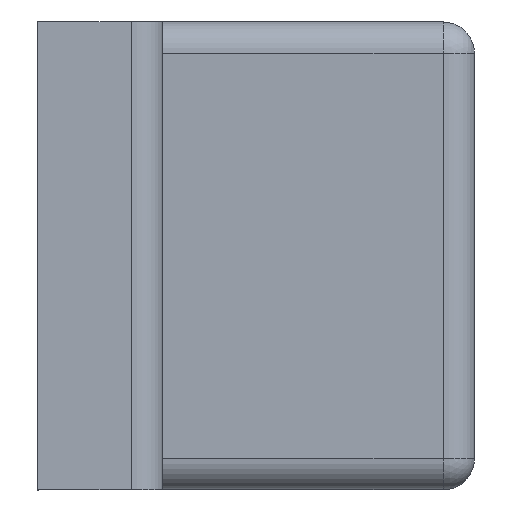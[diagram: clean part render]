
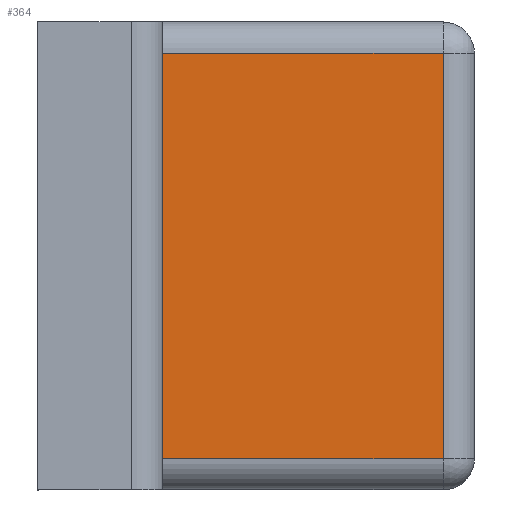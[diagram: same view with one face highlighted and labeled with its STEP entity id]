
A CAD part, left-side view. The second image highlights one B-rep face of the part: STEP entity #364.
In plain terms, the highlighted planar face has unit normal (-1, 0, 0).
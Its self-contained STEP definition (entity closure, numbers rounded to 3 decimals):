
#364=ADVANCED_FACE('',(#755),#757,.T.);
#755=FACE_BOUND('',#756,.T.);
#756=EDGE_LOOP('',(#1004,#1005,#1006,#1007));
#757=PLANE('',#758);
#758=AXIS2_PLACEMENT_3D('',#759,#760,#761);
#759=CARTESIAN_POINT('',(-4.,6.,0.));
#760=DIRECTION('',(-1.,0.,0.));
#761=DIRECTION('',(0.,-1.,0.));
#1004=ORIENTED_EDGE('',*,*,#1133,.T.);
#1005=ORIENTED_EDGE('',*,*,#1143,.T.);
#1006=ORIENTED_EDGE('',*,*,#1107,.F.);
#1007=ORIENTED_EDGE('',*,*,#1103,.F.);
#1103=EDGE_CURVE('',#1247,#1249,#1250,.T.);
#1107=EDGE_CURVE('',#1249,#1256,#1257,.T.);
#1133=EDGE_CURVE('',#1247,#1297,#1298,.T.);
#1143=EDGE_CURVE('',#1297,#1256,#1312,.T.);
#1247=VERTEX_POINT('',#1876);
#1249=VERTEX_POINT('',#1881);
#1250=LINE('',#1882,#1883);
#1256=VERTEX_POINT('',#1899);
#1257=LINE('',#1900,#1901);
#1297=VERTEX_POINT('',#2007);
#1298=LINE('',#2008,#2009);
#1312=LINE('',#2047,#2048);
#1876=CARTESIAN_POINT('',(-4.,6.,1.));
#1881=CARTESIAN_POINT('',(-4.,6.,14.));
#1882=CARTESIAN_POINT('',(-4.,6.,1.));
#1883=VECTOR('',#1884,1.);
#1884=DIRECTION('',(0.,0.,1.));
#1899=CARTESIAN_POINT('',(-4.,-3.,14.));
#1900=CARTESIAN_POINT('',(-4.,6.,14.));
#1901=VECTOR('',#1902,1.);
#1902=DIRECTION('',(0.,-1.,0.));
#2007=CARTESIAN_POINT('',(-4.,-3.,1.));
#2008=CARTESIAN_POINT('',(-4.,6.,1.));
#2009=VECTOR('',#2010,1.);
#2010=DIRECTION('',(0.,-1.,0.));
#2047=CARTESIAN_POINT('',(-4.,-3.,1.));
#2048=VECTOR('',#2049,1.);
#2049=DIRECTION('',(0.,0.,1.));
